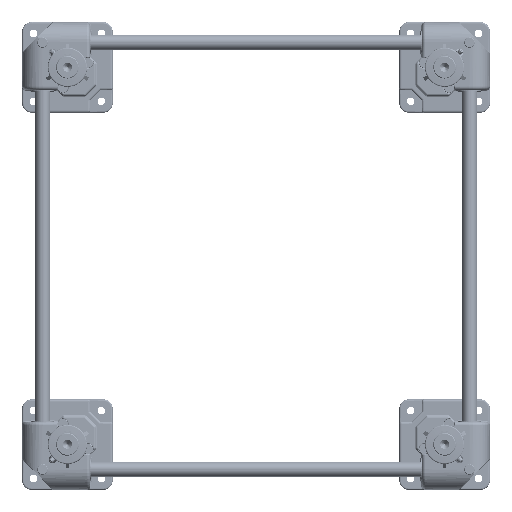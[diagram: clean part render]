
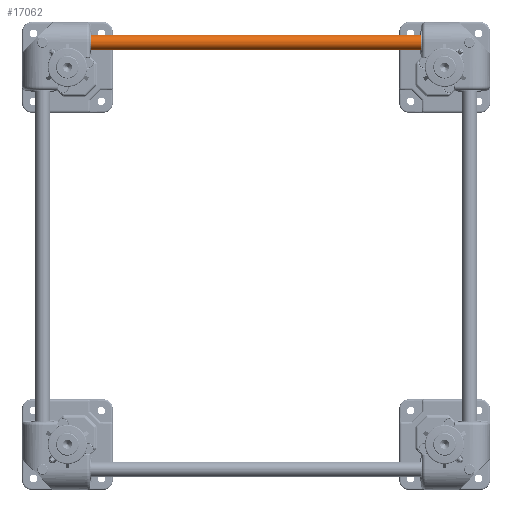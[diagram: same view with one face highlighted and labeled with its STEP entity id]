
A CAD part, top view. The second image highlights one B-rep face of the part: STEP entity #17062.
In plain terms, the highlighted cylindrical face has radius 10 mm (diameter 20 mm), a full revolution.
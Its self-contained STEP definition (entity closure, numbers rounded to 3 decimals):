
#17062=ADVANCED_FACE('',(#36408,#36409),#36410,.T.);
#36408=FACE_OUTER_BOUND('',#75301,.T.);
#36409=FACE_OUTER_BOUND('',#75302,.T.);
#36410=CYLINDRICAL_SURFACE('',#75303,10.0);
#75301=EDGE_LOOP('',(#154817));
#75302=EDGE_LOOP('',(#154818));
#75303=AXIS2_PLACEMENT_3D('',#154819,#154820,#154821);
#154817=ORIENTED_EDGE('',*,*,#188485,.T.);
#154818=ORIENTED_EDGE('',*,*,#188482,.T.);
#154819=CARTESIAN_POINT('',(0.0,0.0,537.4));
#154820=DIRECTION('',(0.0,0.0,-1.0));
#154821=DIRECTION('',(-1.0,0.0,0.0));
#188482=EDGE_CURVE('',#249760,#249760,#249761,.F.);
#188485=EDGE_CURVE('',#249766,#249766,#249767,.T.);
#249760=VERTEX_POINT('',#367052);
#249761=CIRCLE('',#367053,10.0);
#249766=VERTEX_POINT('',#367058);
#249767=CIRCLE('',#367059,10.0);
#367052=CARTESIAN_POINT('',(10.0,0.0,536.4));
#367053=AXIS2_PLACEMENT_3D('',#410272,#410273,#410274);
#367058=CARTESIAN_POINT('',(10.0,0.0,1.0));
#367059=AXIS2_PLACEMENT_3D('',#410281,#410282,#410283);
#410272=CARTESIAN_POINT('',(0.0,0.0,536.4));
#410273=DIRECTION('',(0.0,0.0,1.0));
#410274=DIRECTION('',(1.0,0.0,0.0));
#410281=CARTESIAN_POINT('',(0.0,0.0,1.0));
#410282=DIRECTION('',(0.0,0.0,1.0));
#410283=DIRECTION('',(1.0,0.0,0.0));
